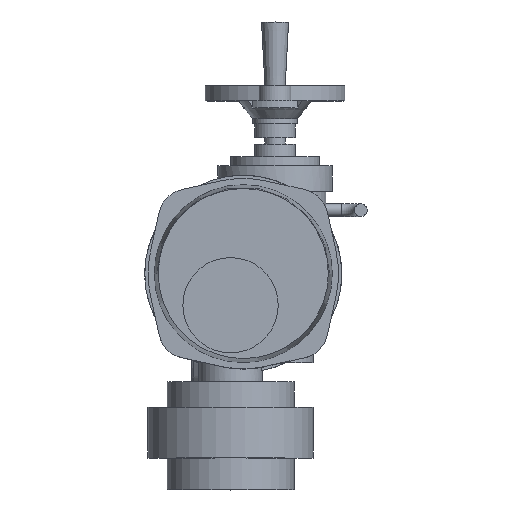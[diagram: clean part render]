
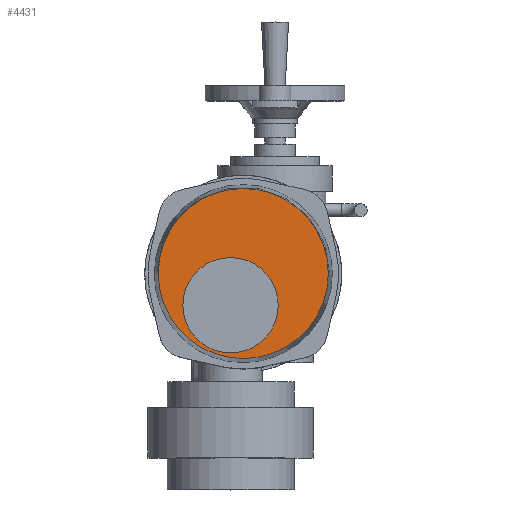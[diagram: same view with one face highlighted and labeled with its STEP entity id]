
A CAD part, top view. The second image highlights one B-rep face of the part: STEP entity #4431.
In plain terms, the highlighted planar face has unit normal (0, 0, 1).
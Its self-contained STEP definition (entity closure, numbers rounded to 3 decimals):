
#4431=ADVANCED_FACE('',(#9804,#9806),#9808,.T.);
#9804=FACE_BOUND('',#9805,.T.);
#9805=EDGE_LOOP('',(#13678));
#9806=FACE_BOUND('',#9807,.T.);
#9807=EDGE_LOOP('',(#13679));
#9808=PLANE('',#9809);
#9809=AXIS2_PLACEMENT_3D('',#9810,#9811,#9812);
#9810=CARTESIAN_POINT('',(15.,30.,412.));
#9811=DIRECTION('',(0.,0.,1.));
#9812=DIRECTION('',(-1.,0.,0.));
#13678=ORIENTED_EDGE('',*,*,#15694,.T.);
#13679=ORIENTED_EDGE('',*,*,#16456,.F.);
#15694=EDGE_CURVE('',#18134,#18134,#18135,.T.);
#16456=EDGE_CURVE('',#19278,#19278,#19279,.T.);
#18134=VERTEX_POINT('',#23770);
#18135=CIRCLE('',#23771,66.908);
#19278=VERTEX_POINT('',#26728);
#19279=CIRCLE('',#26729,37.5);
#23770=CARTESIAN_POINT('',(-51.908,30.,412.));
#23771=AXIS2_PLACEMENT_3D('',#23772,#23773,#23774);
#23772=CARTESIAN_POINT('',(15.,30.,412.));
#23773=DIRECTION('',(0.,0.,1.));
#23774=DIRECTION('',(-1.,0.,0.));
#26728=CARTESIAN_POINT('',(-32.5,5.,412.));
#26729=AXIS2_PLACEMENT_3D('',#26730,#26731,#26732);
#26730=CARTESIAN_POINT('',(5.,5.,412.));
#26731=DIRECTION('',(0.,0.,1.));
#26732=DIRECTION('',(-1.,0.,0.));
